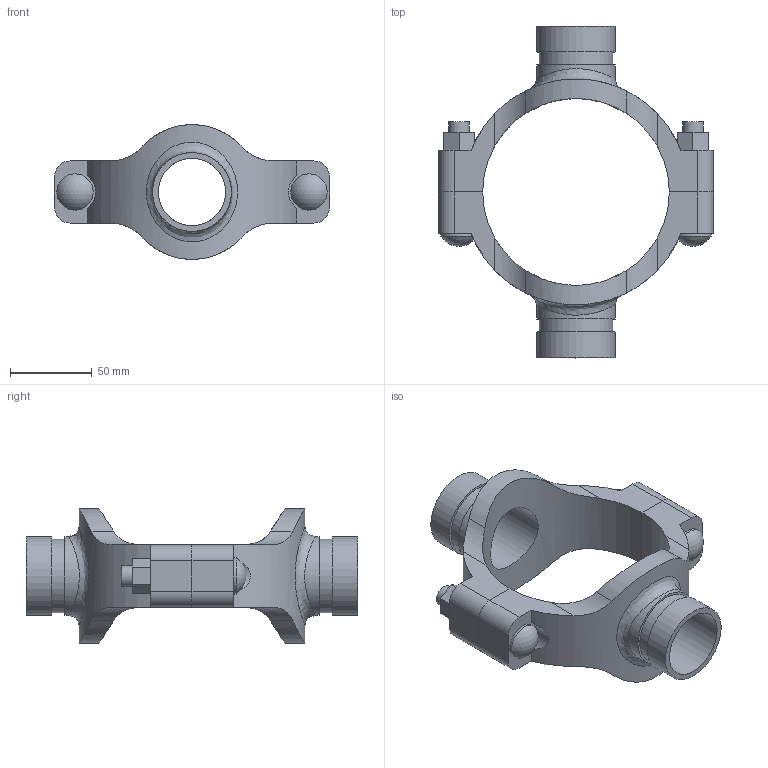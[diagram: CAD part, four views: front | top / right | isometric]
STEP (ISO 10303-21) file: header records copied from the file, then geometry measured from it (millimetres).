
FILE_DESCRIPTION(/* description */ ('VIC MECH-T BRANCH OUTLET CROSS STYLE 920N (GRVD)','CAx-IF Rec.Pracs.---Representation and Presentation of Product Manufacturing Information (PMI)---4.0---2014-10-13'),/* implementation_level */ '2;1');
FILE_NAME(/* name */ 'C:\Users\Vjadhav\AppData\Roaming\Autodesk\ApplicationPlugins\Back Up\Victaulic_IPS_Mechanical-Cross Outlet_Style 920N (OGS)\Victaulic_IPS_Mechanical-Cross Outlet_04.0x01.5x01.5 (100x40x40).stp',/* time_stamp */ '2020-08-06T19:43:45+05:00',/* author */ ('Vjadhav'),/* organization */ ('Victaulic'),/* preprocessor_version */ 'ST-DEVELOPER v17.2',/* originating_system */ 'Autodesk Inventor 2019',/* authorisation */ '');
FILE_SCHEMA (('AP242_MANAGED_MODEL_BASED_3D_ENGINEERING_MIM_LF { 1 0 10303 442 1 1 4 }'));
Length unit declared in the file: inch
Products named in the file (3): 920NG-04.0x01.5x01.5; 920NG-04.0x01.5; 920NG-04.0x01.5_1
Assembly tree (2 placements, depth 2):
  920NG-04.0x01.5x01.5
    920NG-04.0x01.5
    920NG-04.0x01.5_1
Bounding box: 168.4 x 203.2 x 82.41 mm (x, y, z)
Volume: 300896.4 mm3; surface area: 89698.6 mm2
Topology: 2 solids, 2 shells, 108 faces, 274 edges, 186 vertices
Faces by surface type: plane 54, cylinder 50, sphere 2, bspline 2
Full cylindrical faces by diameter (mm): 12.7 x4, 22.225 x2, 41.275 x2, 45.085 x2, 48.26 x4
Entity records: 4310 total; most frequent: CARTESIAN_POINT 1429, DIRECTION 552, ORIENTED_EDGE 548, EDGE_CURVE 274, AXIS2_PLACEMENT_3D 201, VERTEX_POINT 186, LINE 150, VECTOR 150
